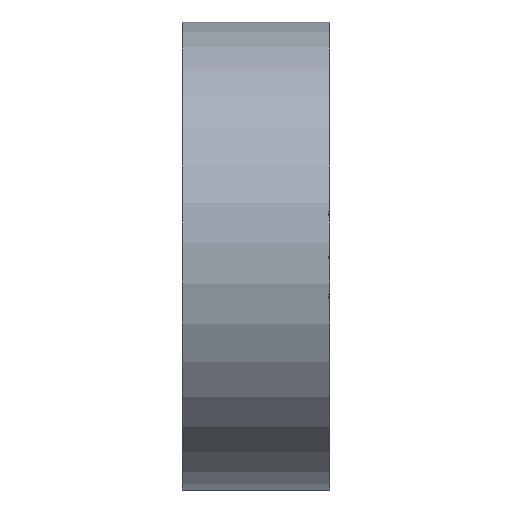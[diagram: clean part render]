
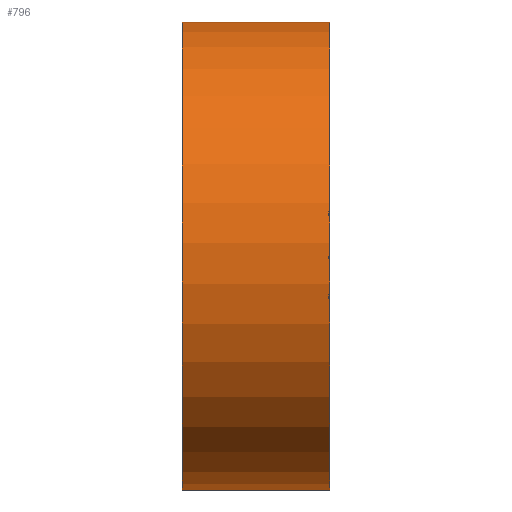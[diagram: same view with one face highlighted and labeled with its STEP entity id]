
A CAD part, front view. The second image highlights one B-rep face of the part: STEP entity #796.
In plain terms, the highlighted cylindrical face has radius 15.9 mm (diameter 31.8 mm), a full revolution.
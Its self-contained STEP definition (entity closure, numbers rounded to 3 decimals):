
#769=CARTESIAN_POINT('',(0.,0.,0.));
#770=DIRECTION('',(1.0,0.,0.));
#771=DIRECTION('',(0.,0.055,0.999));
#772=AXIS2_PLACEMENT_3D('',#769,#770,#771);
#773=CYLINDRICAL_SURFACE('',#772,15.9);
#774=CARTESIAN_POINT('',(10.,-0.867,-15.876));
#775=VERTEX_POINT('',#774);
#776=CARTESIAN_POINT('',(10.,0.,0.));
#777=DIRECTION('',(-1.0,0.,0.));
#778=DIRECTION('',(0.,0.055,0.999));
#779=AXIS2_PLACEMENT_3D('',#776,#777,#778);
#780=CIRCLE('',#779,15.9);
#781=EDGE_CURVE('',#775,#775,#780,.T.);
#782=ORIENTED_EDGE('',*,*,#781,.T.);
#783=EDGE_LOOP('',(#782));
#784=FACE_OUTER_BOUND('',#783,.T.);
#785=CARTESIAN_POINT('',(0.,-0.867,-15.876));
#786=VERTEX_POINT('',#785);
#787=CARTESIAN_POINT('',(0.,0.,0.));
#788=DIRECTION('',(-1.0,0.,0.));
#789=DIRECTION('',(0.,0.055,0.999));
#790=AXIS2_PLACEMENT_3D('',#787,#788,#789);
#791=CIRCLE('',#790,15.9);
#792=EDGE_CURVE('',#786,#786,#791,.T.);
#793=ORIENTED_EDGE('',*,*,#792,.F.);
#794=EDGE_LOOP('',(#793));
#795=FACE_BOUND('',#794,.T.);
#796=ADVANCED_FACE('',(#784,#795),#773,.T.);
